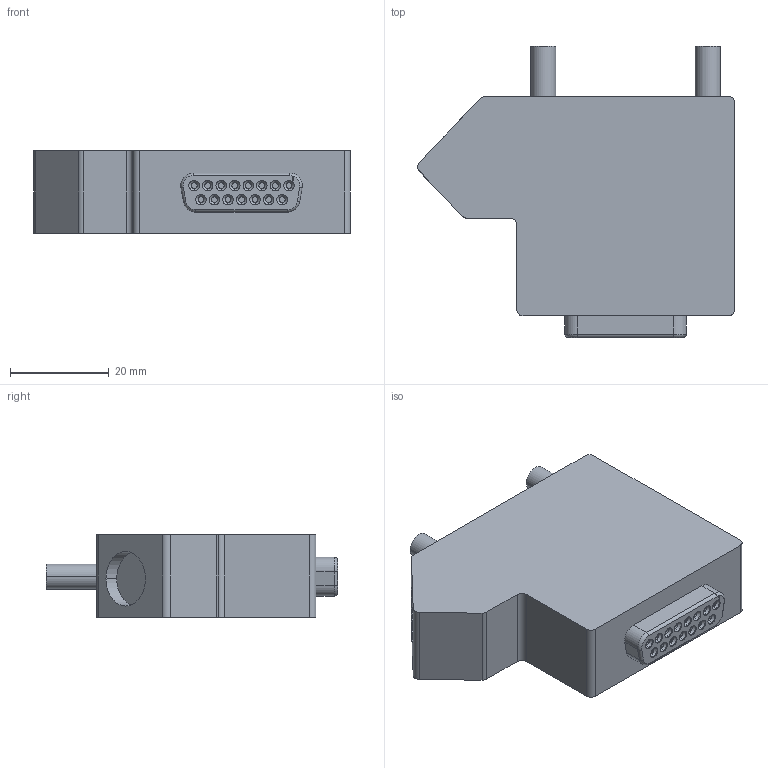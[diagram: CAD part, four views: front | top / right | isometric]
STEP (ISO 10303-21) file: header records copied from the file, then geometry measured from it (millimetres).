
FILE_DESCRIPTION((''),'2;1');
FILE_NAME('CONN_CRIO_DB_15_TB','2007-02-28T',('chrisj'),(''),'PRO/ENGINEER BY PARAMETRIC TECHNOLOGY CORPORATION, 2006300','PRO/ENGINEER BY PARAMETRIC TECHNOLOGY CORPORATION, 2006300','');
FILE_SCHEMA(('AUTOMOTIVE_DESIGN_CC2 { 1 2 10303 214 -1 1 5 2 }'));
Length unit declared in the file: inch
Products named in the file (1): CONN_CRIO_DB_15_TB
Bounding box: 64.22 x 59 x 16.64 mm (x, y, z)
Volume: 39456.5 mm3; surface area: 8724.2 mm2
Topology: 1 solids, 1 shells, 155 faces, 333 edges, 200 vertices
Faces by surface type: cylinder 81, plane 40, cone 30, torus 4
Entity records: 4287 total; most frequent: DIRECTION 811, CARTESIAN_POINT 688, ORIENTED_EDGE 666, EDGE_CURVE 333, AXIS2_PLACEMENT_3D 323, VERTEX_POINT 200, EDGE_LOOP 175, CIRCLE 168
